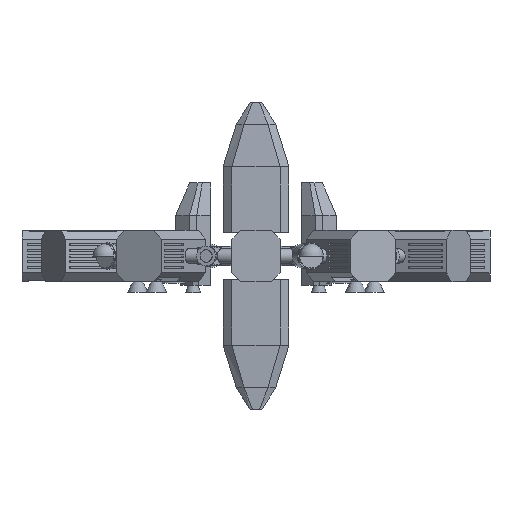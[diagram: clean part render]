
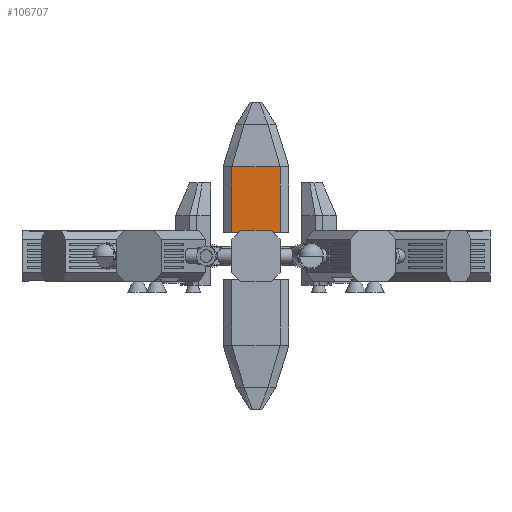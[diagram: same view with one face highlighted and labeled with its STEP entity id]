
A CAD part, left-side view. The second image highlights one B-rep face of the part: STEP entity #106707.
In plain terms, the highlighted planar face has unit normal (-1, 0, 0).
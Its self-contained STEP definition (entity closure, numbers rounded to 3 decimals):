
#106357 = VERTEX_POINT('',#106358);
#106358 = CARTESIAN_POINT('',(-4.667,-11.,10.667));
#106365 = PLANE('',#106366);
#106366 = AXIS2_PLACEMENT_3D('',#106367,#106368,#106369);
#106367 = CARTESIAN_POINT('',(-1.,-15.,40.667));
#106368 = DIRECTION('',(0.737,0.676,-0.));
#106369 = DIRECTION('',(-0.676,0.737,0.));
#106377 = PLANE('',#106378);
#106378 = AXIS2_PLACEMENT_3D('',#106379,#106380,#106381);
#106379 = CARTESIAN_POINT('',(-1.,-15.,10.667));
#106380 = DIRECTION('',(0.,0.,-1.));
#106381 = DIRECTION('',(0.,1.,0.));
#106389 = EDGE_CURVE('',#106357,#106390,#106392,.T.);
#106390 = VERTEX_POINT('',#106391);
#106391 = CARTESIAN_POINT('',(-4.667,-11.,40.667));
#106392 = SURFACE_CURVE('',#106393,(#106396,#106402),.PCURVE_S1.);
#106393 = B_SPLINE_CURVE_WITH_KNOTS('',1,(#106394,#106395),
  .UNSPECIFIED.,.F.,.F.,(2,2),(0.,1.),.PIECEWISE_BEZIER_KNOTS.);
#106394 = CARTESIAN_POINT('',(-4.667,-11.,10.667));
#106395 = CARTESIAN_POINT('',(-4.667,-11.,40.667));
#106396 = PCURVE('',#106365,#106397);
#106397 = DEFINITIONAL_REPRESENTATION('',(#106398),#106401);
#106398 = B_SPLINE_CURVE_WITH_KNOTS('',1,(#106399,#106400),
  .UNSPECIFIED.,.F.,.F.,(2,2),(0.,1.),.PIECEWISE_BEZIER_KNOTS.);
#106399 = CARTESIAN_POINT('',(5.426,-30.));
#106400 = CARTESIAN_POINT('',(5.426,0.));
#106401 = ( GEOMETRIC_REPRESENTATION_CONTEXT(2) 
PARAMETRIC_REPRESENTATION_CONTEXT() REPRESENTATION_CONTEXT('2D SPACE',''
  ) );
#106402 = PCURVE('',#106403,#106408);
#106403 = PLANE('',#106404);
#106404 = AXIS2_PLACEMENT_3D('',#106405,#106406,#106407);
#106405 = CARTESIAN_POINT('',(-4.667,-11.,40.667));
#106406 = DIRECTION('',(1.,0.,0.));
#106407 = DIRECTION('',(-0.,1.,0.));
#106408 = DEFINITIONAL_REPRESENTATION('',(#106409),#106412);
#106409 = B_SPLINE_CURVE_WITH_KNOTS('',1,(#106410,#106411),
  .UNSPECIFIED.,.F.,.F.,(2,2),(0.,1.),.PIECEWISE_BEZIER_KNOTS.);
#106410 = CARTESIAN_POINT('',(0.,-30.));
#106411 = CARTESIAN_POINT('',(0.,0.));
#106412 = ( GEOMETRIC_REPRESENTATION_CONTEXT(2) 
PARAMETRIC_REPRESENTATION_CONTEXT() REPRESENTATION_CONTEXT('2D SPACE',''
  ) );
#106468 = EDGE_CURVE('',#106357,#106469,#106471,.T.);
#106469 = VERTEX_POINT('',#106470);
#106470 = CARTESIAN_POINT('',(-4.667,11.,10.667));
#106471 = SURFACE_CURVE('',#106472,(#106476,#106483),.PCURVE_S1.);
#106472 = LINE('',#106473,#106474);
#106473 = CARTESIAN_POINT('',(-4.667,-11.,10.667));
#106474 = VECTOR('',#106475,1.);
#106475 = DIRECTION('',(0.,1.,0.));
#106476 = PCURVE('',#106377,#106477);
#106477 = DEFINITIONAL_REPRESENTATION('',(#106478),#106482);
#106478 = LINE('',#106479,#106480);
#106479 = CARTESIAN_POINT('',(4.,-3.667));
#106480 = VECTOR('',#106481,1.);
#106481 = DIRECTION('',(1.,0.));
#106482 = ( GEOMETRIC_REPRESENTATION_CONTEXT(2) 
PARAMETRIC_REPRESENTATION_CONTEXT() REPRESENTATION_CONTEXT('2D SPACE',''
  ) );
#106483 = PCURVE('',#106403,#106484);
#106484 = DEFINITIONAL_REPRESENTATION('',(#106485),#106489);
#106485 = LINE('',#106486,#106487);
#106486 = CARTESIAN_POINT('',(0.,-30.));
#106487 = VECTOR('',#106488,1.);
#106488 = DIRECTION('',(1.,0.));
#106489 = ( GEOMETRIC_REPRESENTATION_CONTEXT(2) 
PARAMETRIC_REPRESENTATION_CONTEXT() REPRESENTATION_CONTEXT('2D SPACE',''
  ) );
#106507 = PLANE('',#106508);
#106508 = AXIS2_PLACEMENT_3D('',#106509,#106510,#106511);
#106509 = CARTESIAN_POINT('',(-4.667,11.,40.667));
#106510 = DIRECTION('',(0.737,-0.676,0.));
#106511 = DIRECTION('',(0.676,0.737,0.));
#106707 = ADVANCED_FACE('',(#106708),#106403,.F.);
#106708 = FACE_BOUND('',#106709,.F.);
#106709 = EDGE_LOOP('',(#106710,#106711,#106731,#106756));
#106710 = ORIENTED_EDGE('',*,*,#106468,.T.);
#106711 = ORIENTED_EDGE('',*,*,#106712,.T.);
#106712 = EDGE_CURVE('',#106469,#106713,#106715,.T.);
#106713 = VERTEX_POINT('',#106714);
#106714 = CARTESIAN_POINT('',(-4.667,11.,40.667));
#106715 = SURFACE_CURVE('',#106716,(#106719,#106725),.PCURVE_S1.);
#106716 = B_SPLINE_CURVE_WITH_KNOTS('',1,(#106717,#106718),
  .UNSPECIFIED.,.F.,.F.,(2,2),(0.,1.),.PIECEWISE_BEZIER_KNOTS.);
#106717 = CARTESIAN_POINT('',(-4.667,11.,10.667));
#106718 = CARTESIAN_POINT('',(-4.667,11.,40.667));
#106719 = PCURVE('',#106403,#106720);
#106720 = DEFINITIONAL_REPRESENTATION('',(#106721),#106724);
#106721 = B_SPLINE_CURVE_WITH_KNOTS('',1,(#106722,#106723),
  .UNSPECIFIED.,.F.,.F.,(2,2),(0.,1.),.PIECEWISE_BEZIER_KNOTS.);
#106722 = CARTESIAN_POINT('',(22.,-30.));
#106723 = CARTESIAN_POINT('',(22.,0.));
#106724 = ( GEOMETRIC_REPRESENTATION_CONTEXT(2) 
PARAMETRIC_REPRESENTATION_CONTEXT() REPRESENTATION_CONTEXT('2D SPACE',''
  ) );
#106725 = PCURVE('',#106507,#106726);
#106726 = DEFINITIONAL_REPRESENTATION('',(#106727),#106730);
#106727 = B_SPLINE_CURVE_WITH_KNOTS('',1,(#106728,#106729),
  .UNSPECIFIED.,.F.,.F.,(2,2),(0.,1.),.PIECEWISE_BEZIER_KNOTS.);
#106728 = CARTESIAN_POINT('',(0.,-30.));
#106729 = CARTESIAN_POINT('',(0.,0.));
#106730 = ( GEOMETRIC_REPRESENTATION_CONTEXT(2) 
PARAMETRIC_REPRESENTATION_CONTEXT() REPRESENTATION_CONTEXT('2D SPACE',''
  ) );
#106731 = ORIENTED_EDGE('',*,*,#106732,.F.);
#106732 = EDGE_CURVE('',#106390,#106713,#106733,.T.);
#106733 = SURFACE_CURVE('',#106734,(#106738,#106745),.PCURVE_S1.);
#106734 = LINE('',#106735,#106736);
#106735 = CARTESIAN_POINT('',(-4.667,-11.,40.667));
#106736 = VECTOR('',#106737,1.);
#106737 = DIRECTION('',(0.,1.,0.));
#106738 = PCURVE('',#106403,#106739);
#106739 = DEFINITIONAL_REPRESENTATION('',(#106740),#106744);
#106740 = LINE('',#106741,#106742);
#106741 = CARTESIAN_POINT('',(0.,0.));
#106742 = VECTOR('',#106743,1.);
#106743 = DIRECTION('',(1.,0.));
#106744 = ( GEOMETRIC_REPRESENTATION_CONTEXT(2) 
PARAMETRIC_REPRESENTATION_CONTEXT() REPRESENTATION_CONTEXT('2D SPACE',''
  ) );
#106745 = PCURVE('',#106746,#106751);
#106746 = B_SPLINE_SURFACE_WITH_KNOTS('',1,1,(
    (#106747,#106748)
    ,(#106749,#106750
    )),.UNSPECIFIED.,.F.,.F.,.F.,(2,2),(2,2),(0.,6.6),(0.,1.),
  .PIECEWISE_BEZIER_KNOTS.);
#106747 = CARTESIAN_POINT('',(-4.667,-11.,40.667));
#106748 = CARTESIAN_POINT('',(-3.667,-5.4,60.));
#106749 = CARTESIAN_POINT('',(-4.667,11.,40.667));
#106750 = CARTESIAN_POINT('',(-3.667,5.4,60.));
#106751 = DEFINITIONAL_REPRESENTATION('',(#106752),#106755);
#106752 = B_SPLINE_CURVE_WITH_KNOTS('',1,(#106753,#106754),
  .UNSPECIFIED.,.F.,.F.,(2,2),(0.,22.),.PIECEWISE_BEZIER_KNOTS.);
#106753 = CARTESIAN_POINT('',(0.,0.));
#106754 = CARTESIAN_POINT('',(6.6,0.));
#106755 = ( GEOMETRIC_REPRESENTATION_CONTEXT(2) 
PARAMETRIC_REPRESENTATION_CONTEXT() REPRESENTATION_CONTEXT('2D SPACE',''
  ) );
#106756 = ORIENTED_EDGE('',*,*,#106389,.F.);
